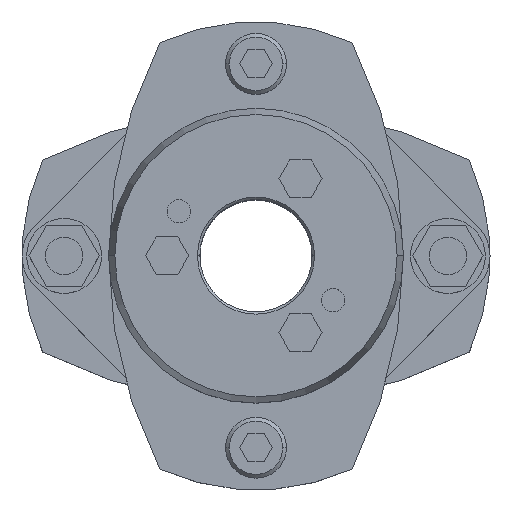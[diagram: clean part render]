
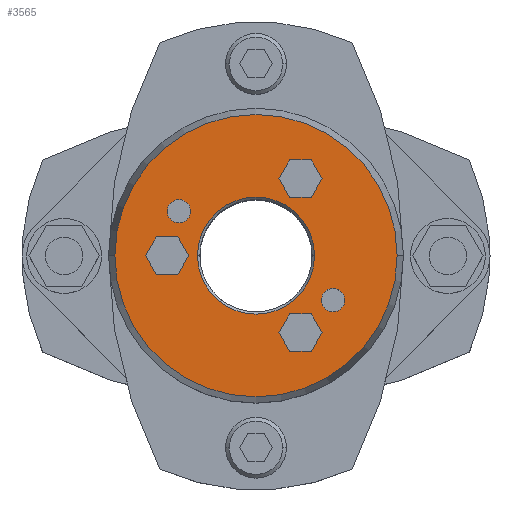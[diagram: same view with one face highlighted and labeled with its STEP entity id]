
A CAD part, top view. The second image highlights one B-rep face of the part: STEP entity #3565.
In plain terms, the highlighted planar face has unit normal (0, 0, 1).
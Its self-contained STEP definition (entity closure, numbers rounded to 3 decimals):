
#1471=CARTESIAN_POINT('',(-12.5,0.,42.0));
#1472=VERTEX_POINT('',#1471);
#1488=CARTESIAN_POINT('',(12.5,0.,42.0));
#1489=VERTEX_POINT('',#1488);
#1496=CARTESIAN_POINT('',(0.,0.,42.0));
#1497=DIRECTION('',(0.0,0.0,1.0));
#1498=DIRECTION('',(-1.0,0.0,0.0));
#1499=AXIS2_PLACEMENT_3D('',#1496,#1497,#1498);
#1500=CIRCLE('',#1499,12.5);
#1501=EDGE_CURVE('',#1489,#1472,#1500,.T.);
#1659=CARTESIAN_POINT('',(30.16,0.,42.0));
#1660=VERTEX_POINT('',#1659);
#1667=CARTESIAN_POINT('',(-30.16,0.,42.0));
#1668=VERTEX_POINT('',#1667);
#1669=CARTESIAN_POINT('',(0.,0.,42.0));
#1670=DIRECTION('',(0.0,0.0,-1.0));
#1671=DIRECTION('',(1.0,0.0,0.0));
#1672=AXIS2_PLACEMENT_3D('',#1669,#1670,#1671);
#1673=CIRCLE('',#1672,30.16);
#1674=EDGE_CURVE('',#1660,#1668,#1673,.T.);
#1769=CARTESIAN_POINT('',(-18.954,9.5,42.0));
#1770=VERTEX_POINT('',#1769);
#1786=CARTESIAN_POINT('',(-13.954,9.5,42.0));
#1787=VERTEX_POINT('',#1786);
#1794=CARTESIAN_POINT('',(-16.454,9.5,42.0));
#1795=DIRECTION('',(0.0,0.0,-1.0));
#1796=DIRECTION('',(-1.0,0.0,0.0));
#1797=AXIS2_PLACEMENT_3D('',#1794,#1795,#1796);
#1798=CIRCLE('',#1797,2.5);
#1799=EDGE_CURVE('',#1770,#1787,#1798,.T.);
#1811=CARTESIAN_POINT('',(13.954,-9.5,42.0));
#1812=VERTEX_POINT('',#1811);
#1828=CARTESIAN_POINT('',(18.954,-9.5,42.0));
#1829=VERTEX_POINT('',#1828);
#1836=CARTESIAN_POINT('',(16.454,-9.5,42.0));
#1837=DIRECTION('',(0.0,0.0,-1.0));
#1838=DIRECTION('',(-1.0,0.0,0.0));
#1839=AXIS2_PLACEMENT_3D('',#1836,#1837,#1838);
#1840=CIRCLE('',#1839,2.5);
#1841=EDGE_CURVE('',#1812,#1829,#1840,.T.);
#2592=CARTESIAN_POINT('',(16.454,-9.5,42.0));
#2593=DIRECTION('',(0.0,0.0,-1.0));
#2594=DIRECTION('',(-1.0,0.0,0.0));
#2595=AXIS2_PLACEMENT_3D('',#2592,#2593,#2594);
#2596=CIRCLE('',#2595,2.5);
#2597=EDGE_CURVE('',#1829,#1812,#2596,.T.);
#2626=CARTESIAN_POINT('',(-16.454,9.5,42.0));
#2627=DIRECTION('',(0.0,0.0,-1.0));
#2628=DIRECTION('',(-1.0,0.0,0.0));
#2629=AXIS2_PLACEMENT_3D('',#2626,#2627,#2628);
#2630=CIRCLE('',#2629,2.5);
#2631=EDGE_CURVE('',#1787,#1770,#2630,.T.);
#2669=CARTESIAN_POINT('',(-23.619,0.,42.0));
#2670=VERTEX_POINT('',#2669);
#2677=CARTESIAN_POINT('',(-21.309,-4.,42.0));
#2678=VERTEX_POINT('',#2677);
#2679=CARTESIAN_POINT('',(-21.309,-4.,42.0));
#2680=DIRECTION('',(-0.5,0.866,0.0));
#2681=VECTOR('',#2680,4.619);
#2682=LINE('',#2679,#2681);
#2683=EDGE_CURVE('',#2678,#2670,#2682,.T.);
#2707=CARTESIAN_POINT('',(-21.309,4.,42.0));
#2708=VERTEX_POINT('',#2707);
#2715=CARTESIAN_POINT('',(-23.619,0.,42.0));
#2716=DIRECTION('',(0.5,0.866,0.0));
#2717=VECTOR('',#2716,4.619);
#2718=LINE('',#2715,#2717);
#2719=EDGE_CURVE('',#2670,#2708,#2718,.T.);
#2738=CARTESIAN_POINT('',(-16.691,4.,42.0));
#2739=VERTEX_POINT('',#2738);
#2746=CARTESIAN_POINT('',(-21.309,4.,42.0));
#2747=DIRECTION('',(1.0,0.0,0.0));
#2748=VECTOR('',#2747,4.619);
#2749=LINE('',#2746,#2748);
#2750=EDGE_CURVE('',#2708,#2739,#2749,.T.);
#2769=CARTESIAN_POINT('',(-14.381,0.,42.0));
#2770=VERTEX_POINT('',#2769);
#2777=CARTESIAN_POINT('',(-16.691,4.,42.0));
#2778=DIRECTION('',(0.5,-0.866,0.0));
#2779=VECTOR('',#2778,4.619);
#2780=LINE('',#2777,#2779);
#2781=EDGE_CURVE('',#2739,#2770,#2780,.T.);
#2800=CARTESIAN_POINT('',(-16.691,-4.,42.0));
#2801=VERTEX_POINT('',#2800);
#2808=CARTESIAN_POINT('',(-14.381,0.,42.0));
#2809=DIRECTION('',(-0.5,-0.866,0.0));
#2810=VECTOR('',#2809,4.619);
#2811=LINE('',#2808,#2810);
#2812=EDGE_CURVE('',#2770,#2801,#2811,.T.);
#2830=CARTESIAN_POINT('',(-16.691,-4.,42.0));
#2831=DIRECTION('',(-1.0,0.0,0.0));
#2832=VECTOR('',#2831,4.619);
#2833=LINE('',#2830,#2832);
#2834=EDGE_CURVE('',#2801,#2678,#2833,.T.);
#2869=CARTESIAN_POINT('',(4.881,16.454,42.0));
#2870=VERTEX_POINT('',#2869);
#2877=CARTESIAN_POINT('',(7.191,12.454,42.0));
#2878=VERTEX_POINT('',#2877);
#2879=CARTESIAN_POINT('',(7.191,12.454,42.0));
#2880=DIRECTION('',(-0.5,0.866,0.0));
#2881=VECTOR('',#2880,4.619);
#2882=LINE('',#2879,#2881);
#2883=EDGE_CURVE('',#2878,#2870,#2882,.T.);
#2907=CARTESIAN_POINT('',(7.191,20.454,42.0));
#2908=VERTEX_POINT('',#2907);
#2915=CARTESIAN_POINT('',(4.881,16.454,42.0));
#2916=DIRECTION('',(0.5,0.866,0.0));
#2917=VECTOR('',#2916,4.619);
#2918=LINE('',#2915,#2917);
#2919=EDGE_CURVE('',#2870,#2908,#2918,.T.);
#2938=CARTESIAN_POINT('',(11.809,20.454,42.0));
#2939=VERTEX_POINT('',#2938);
#2946=CARTESIAN_POINT('',(7.191,20.454,42.0));
#2947=DIRECTION('',(1.0,0.0,0.0));
#2948=VECTOR('',#2947,4.619);
#2949=LINE('',#2946,#2948);
#2950=EDGE_CURVE('',#2908,#2939,#2949,.T.);
#2969=CARTESIAN_POINT('',(14.119,16.454,42.0));
#2970=VERTEX_POINT('',#2969);
#2977=CARTESIAN_POINT('',(11.809,20.454,42.0));
#2978=DIRECTION('',(0.5,-0.866,0.0));
#2979=VECTOR('',#2978,4.619);
#2980=LINE('',#2977,#2979);
#2981=EDGE_CURVE('',#2939,#2970,#2980,.T.);
#3000=CARTESIAN_POINT('',(11.809,12.454,42.0));
#3001=VERTEX_POINT('',#3000);
#3008=CARTESIAN_POINT('',(14.119,16.454,42.0));
#3009=DIRECTION('',(-0.5,-0.866,0.0));
#3010=VECTOR('',#3009,4.619);
#3011=LINE('',#3008,#3010);
#3012=EDGE_CURVE('',#2970,#3001,#3011,.T.);
#3030=CARTESIAN_POINT('',(11.809,12.454,42.0));
#3031=DIRECTION('',(-1.0,0.0,0.0));
#3032=VECTOR('',#3031,4.619);
#3033=LINE('',#3030,#3032);
#3034=EDGE_CURVE('',#3001,#2878,#3033,.T.);
#3069=CARTESIAN_POINT('',(4.881,-16.454,42.0));
#3070=VERTEX_POINT('',#3069);
#3077=CARTESIAN_POINT('',(7.191,-20.454,42.0));
#3078=VERTEX_POINT('',#3077);
#3079=CARTESIAN_POINT('',(7.191,-20.454,42.0));
#3080=DIRECTION('',(-0.5,0.866,0.0));
#3081=VECTOR('',#3080,4.619);
#3082=LINE('',#3079,#3081);
#3083=EDGE_CURVE('',#3078,#3070,#3082,.T.);
#3107=CARTESIAN_POINT('',(7.191,-12.454,42.0));
#3108=VERTEX_POINT('',#3107);
#3115=CARTESIAN_POINT('',(4.881,-16.454,42.0));
#3116=DIRECTION('',(0.5,0.866,0.0));
#3117=VECTOR('',#3116,4.619);
#3118=LINE('',#3115,#3117);
#3119=EDGE_CURVE('',#3070,#3108,#3118,.T.);
#3138=CARTESIAN_POINT('',(11.809,-12.454,42.0));
#3139=VERTEX_POINT('',#3138);
#3146=CARTESIAN_POINT('',(7.191,-12.454,42.0));
#3147=DIRECTION('',(1.0,0.0,0.0));
#3148=VECTOR('',#3147,4.619);
#3149=LINE('',#3146,#3148);
#3150=EDGE_CURVE('',#3108,#3139,#3149,.T.);
#3169=CARTESIAN_POINT('',(14.119,-16.454,42.0));
#3170=VERTEX_POINT('',#3169);
#3177=CARTESIAN_POINT('',(11.809,-12.454,42.0));
#3178=DIRECTION('',(0.5,-0.866,0.0));
#3179=VECTOR('',#3178,4.619);
#3180=LINE('',#3177,#3179);
#3181=EDGE_CURVE('',#3139,#3170,#3180,.T.);
#3200=CARTESIAN_POINT('',(11.809,-20.454,42.0));
#3201=VERTEX_POINT('',#3200);
#3208=CARTESIAN_POINT('',(14.119,-16.454,42.0));
#3209=DIRECTION('',(-0.5,-0.866,0.0));
#3210=VECTOR('',#3209,4.619);
#3211=LINE('',#3208,#3210);
#3212=EDGE_CURVE('',#3170,#3201,#3211,.T.);
#3230=CARTESIAN_POINT('',(11.809,-20.454,42.0));
#3231=DIRECTION('',(-1.0,0.0,0.0));
#3232=VECTOR('',#3231,4.619);
#3233=LINE('',#3230,#3232);
#3234=EDGE_CURVE('',#3201,#3078,#3233,.T.);
#3504=CARTESIAN_POINT('',(0.,0.,42.0));
#3505=DIRECTION('',(0.0,0.0,-1.0));
#3506=DIRECTION('',(1.0,0.0,0.0));
#3507=AXIS2_PLACEMENT_3D('',#3504,#3505,#3506);
#3508=CIRCLE('',#3507,30.16);
#3509=EDGE_CURVE('',#1668,#1660,#3508,.T.);
#3514=CARTESIAN_POINT('',(-2.864,0.,42.0));
#3515=DIRECTION('',(0.0,0.0,1.0));
#3516=DIRECTION('',(-1.0,0.0,0.0));
#3517=AXIS2_PLACEMENT_3D('',#3514,#3515,#3516);
#3518=PLANE('',#3517);
#3519=ORIENTED_EDGE('',*,*,#3509,.F.);
#3520=ORIENTED_EDGE('',*,*,#1674,.F.);
#3521=EDGE_LOOP('',(#3519,#3520));
#3522=FACE_OUTER_BOUND('',#3521,.T.);
#3523=ORIENTED_EDGE('',*,*,#1841,.T.);
#3524=ORIENTED_EDGE('',*,*,#2597,.T.);
#3525=EDGE_LOOP('',(#3523,#3524));
#3526=FACE_BOUND('',#3525,.T.);
#3527=ORIENTED_EDGE('',*,*,#1799,.T.);
#3528=ORIENTED_EDGE('',*,*,#2631,.T.);
#3529=EDGE_LOOP('',(#3527,#3528));
#3530=FACE_BOUND('',#3529,.T.);
#3531=ORIENTED_EDGE('',*,*,#2683,.T.);
#3532=ORIENTED_EDGE('',*,*,#2719,.T.);
#3533=ORIENTED_EDGE('',*,*,#2750,.T.);
#3534=ORIENTED_EDGE('',*,*,#2781,.T.);
#3535=ORIENTED_EDGE('',*,*,#2812,.T.);
#3536=ORIENTED_EDGE('',*,*,#2834,.T.);
#3537=EDGE_LOOP('',(#3531,#3532,#3533,#3534,#3535,#3536));
#3538=FACE_BOUND('',#3537,.T.);
#3539=ORIENTED_EDGE('',*,*,#2883,.T.);
#3540=ORIENTED_EDGE('',*,*,#2919,.T.);
#3541=ORIENTED_EDGE('',*,*,#2950,.T.);
#3542=ORIENTED_EDGE('',*,*,#2981,.T.);
#3543=ORIENTED_EDGE('',*,*,#3012,.T.);
#3544=ORIENTED_EDGE('',*,*,#3034,.T.);
#3545=EDGE_LOOP('',(#3539,#3540,#3541,#3542,#3543,#3544));
#3546=FACE_BOUND('',#3545,.T.);
#3547=ORIENTED_EDGE('',*,*,#3083,.T.);
#3548=ORIENTED_EDGE('',*,*,#3119,.T.);
#3549=ORIENTED_EDGE('',*,*,#3150,.T.);
#3550=ORIENTED_EDGE('',*,*,#3181,.T.);
#3551=ORIENTED_EDGE('',*,*,#3212,.T.);
#3552=ORIENTED_EDGE('',*,*,#3234,.T.);
#3553=EDGE_LOOP('',(#3547,#3548,#3549,#3550,#3551,#3552));
#3554=FACE_BOUND('',#3553,.T.);
#3555=ORIENTED_EDGE('',*,*,#1501,.F.);
#3556=CARTESIAN_POINT('',(0.,0.,42.0));
#3557=DIRECTION('',(0.0,0.0,1.0));
#3558=DIRECTION('',(-1.0,0.0,0.0));
#3559=AXIS2_PLACEMENT_3D('',#3556,#3557,#3558);
#3560=CIRCLE('',#3559,12.5);
#3561=EDGE_CURVE('',#1472,#1489,#3560,.T.);
#3562=ORIENTED_EDGE('',*,*,#3561,.F.);
#3563=EDGE_LOOP('',(#3555,#3562));
#3564=FACE_BOUND('',#3563,.T.);
#3565=ADVANCED_FACE('',(#3522,#3526,#3530,#3538,#3546,#3554,#3564),#3518,.T.);
